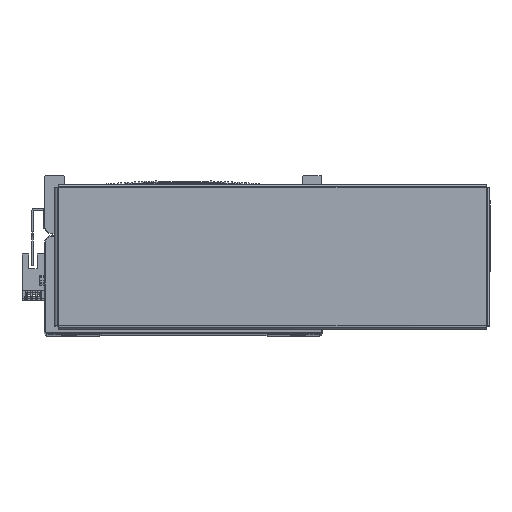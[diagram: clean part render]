
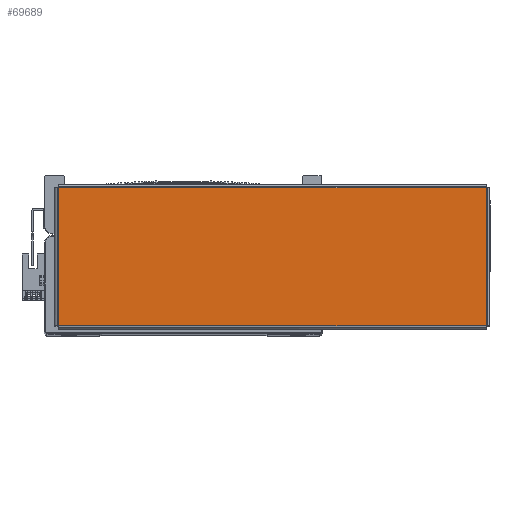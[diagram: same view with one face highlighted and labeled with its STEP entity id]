
A CAD part, top view. The second image highlights one B-rep face of the part: STEP entity #69689.
In plain terms, the highlighted planar face has unit normal (0, 0, 1) as drawn and (0, -1, 0) by its records, which use the part's own axes.
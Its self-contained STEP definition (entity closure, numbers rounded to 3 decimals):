
#7175 = FACE_OUTER_BOUND ( 'NONE', #65563, .T. ) ;
#23640 = EDGE_CURVE ( 'NONE', #64694, #64741, #41286, .T. ) ;
#23642 = EDGE_CURVE ( 'NONE', #64741, #64664, #41301, .T. ) ;
#23763 = EDGE_CURVE ( 'NONE', #64714, #64694, #39334, .T. ) ;
#23833 = EDGE_CURVE ( 'NONE', #64664, #64714, #39347, .T. ) ;
#30197 = CARTESIAN_POINT ( 'NONE',  ( -130.893, -1.5, -42.263 ) ) ;
#30208 = DIRECTION ( 'NONE',  ( 0., 0., -1. ) ) ;
#30228 = DIRECTION ( 'NONE',  ( 1., 0., 0. ) ) ;
#30232 = CARTESIAN_POINT ( 'NONE',  ( -130.863, -1.5, 42.293 ) ) ;
#30479 = DIRECTION ( 'NONE',  ( -1., 0., 0. ) ) ;
#30482 = CARTESIAN_POINT ( 'NONE',  ( 130.893, -1.5, 42.263 ) ) ;
#30595 = CARTESIAN_POINT ( 'NONE',  ( 130.863, -1.5, -42.293 ) ) ;
#30630 = DIRECTION ( 'NONE',  ( 0., 0., 1. ) ) ;
#32571 = CARTESIAN_POINT ( 'NONE',  ( 130.863, -1.5, -42.263 ) ) ;
#32720 = CARTESIAN_POINT ( 'NONE',  ( -130.863, -1.5, 42.263 ) ) ;
#32776 = CARTESIAN_POINT ( 'NONE',  ( 130.863, -1.5, 42.263 ) ) ;
#32780 = CARTESIAN_POINT ( 'NONE',  ( -130.863, -1.5, -42.263 ) ) ;
#34288 = AXIS2_PLACEMENT_3D ( 'NONE', #35171, #35164, #35190 ) ;
#35164 = DIRECTION ( 'NONE',  ( 0., 1., 0. ) ) ;
#35166 = PLANE ( 'NONE',  #34288 ) ;
#35171 = CARTESIAN_POINT ( 'NONE',  ( 0., -1.5, 0. ) ) ;
#35190 = DIRECTION ( 'NONE',  ( 0., 0., 1. ) ) ;
#39334 = LINE ( 'NONE', #30482, #39367 ) ;
#39347 = LINE ( 'NONE', #30595, #39373 ) ;
#39367 = VECTOR ( 'NONE', #30479, 1000. ) ;
#39373 = VECTOR ( 'NONE', #30630, 1000. ) ;
#41258 = VECTOR ( 'NONE', #30208, 1000. ) ;
#41286 = LINE ( 'NONE', #30232, #41258 ) ;
#41301 = LINE ( 'NONE', #30197, #41302 ) ;
#41302 = VECTOR ( 'NONE', #30228, 1000. ) ;
#59964 = ORIENTED_EDGE ( 'NONE', *, *, #23763, .T. ) ;
#59966 = ORIENTED_EDGE ( 'NONE', *, *, #23833, .T. ) ;
#60008 = ORIENTED_EDGE ( 'NONE', *, *, #23640, .T. ) ;
#60033 = ORIENTED_EDGE ( 'NONE', *, *, #23642, .T. ) ;
#64664 = VERTEX_POINT ( 'NONE', #32571 ) ;
#64694 = VERTEX_POINT ( 'NONE', #32720 ) ;
#64714 = VERTEX_POINT ( 'NONE', #32776 ) ;
#64741 = VERTEX_POINT ( 'NONE', #32780 ) ;
#65563 = EDGE_LOOP ( 'NONE', ( #59966, #59964, #60008, #60033 ) ) ;
#69689 = ADVANCED_FACE ( 'NONE', ( #7175 ), #35166, .F. ) ;
